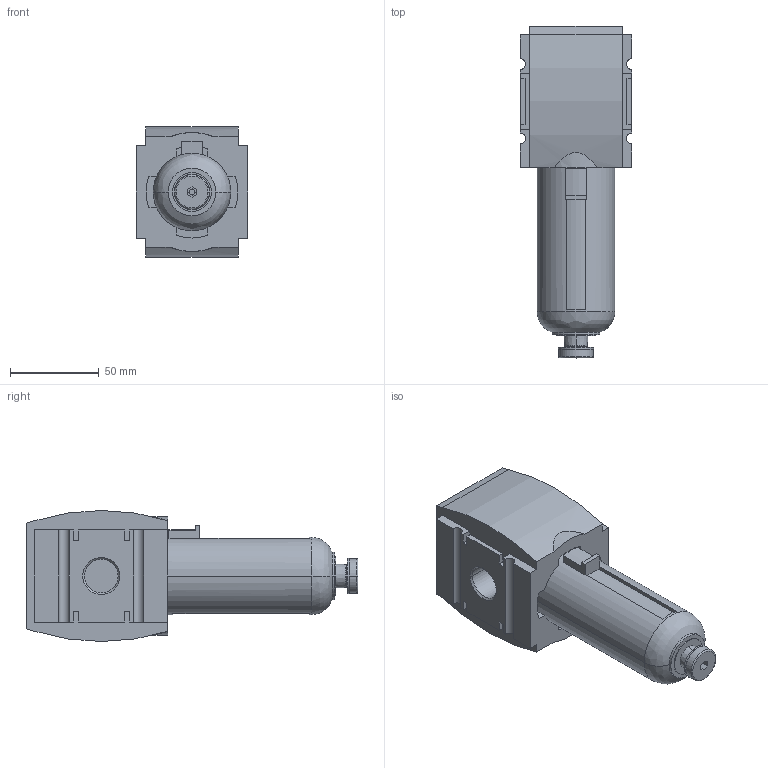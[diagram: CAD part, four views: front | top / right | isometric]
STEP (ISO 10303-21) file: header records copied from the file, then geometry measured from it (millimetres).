
FILE_DESCRIPTION((''),'2;1');
FILE_NAME('R412007012_ASM','2019-08-20T',('PDH2HC'),(''),'CREO PARAMETRIC BY PTC INC, 2016260','CREO PARAMETRIC BY PTC INC, 2016260','');
FILE_SCHEMA(('CONFIG_CONTROL_DESIGN'));
Length unit declared in the file: millimetre
Products named in the file (4): R412007012; AS3_RES_FILTER_SEMI; AS3_DRAIN_KNOB_PC; R412007012_ASM
Assembly tree (3 placements, depth 2):
  R412007012_ASM
    R412007012
    AS3_RES_FILTER_SEMI
    AS3_DRAIN_KNOB_PC
Bounding box: 63 x 187.5 x 74 mm (x, y, z)
Volume: 450182.4 mm3; surface area: 58638.8 mm2
Topology: 3 solids, 3 shells, 174 faces, 440 edges, 288 vertices
Faces by surface type: plane 116, cylinder 42, cone 10, torus 4, bspline 2
Entity records: 5473 total; most frequent: CARTESIAN_POINT 1049, DIRECTION 924, ORIENTED_EDGE 880, EDGE_CURVE 440, VECTOR 310, LINE 310, AXIS2_PLACEMENT_3D 307, VERTEX_POINT 288
